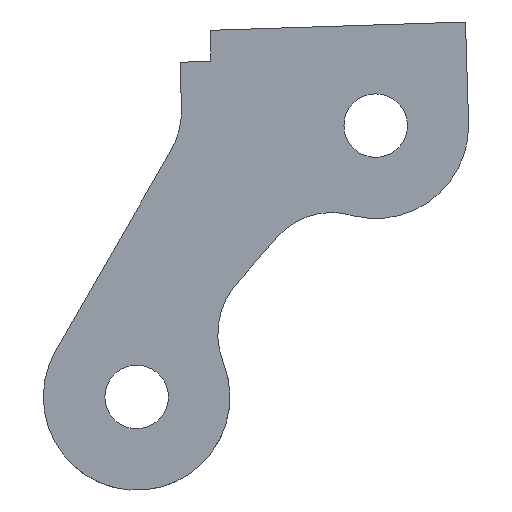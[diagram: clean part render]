
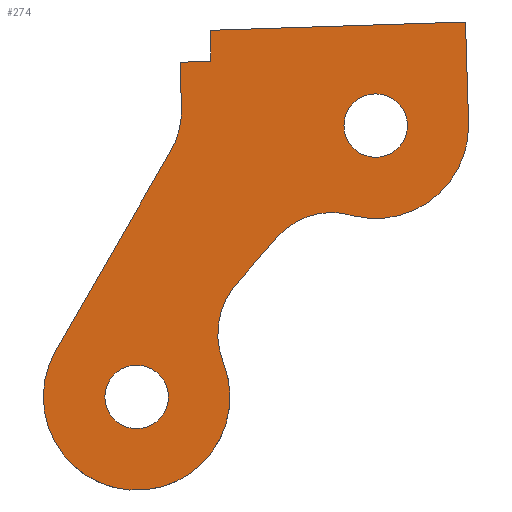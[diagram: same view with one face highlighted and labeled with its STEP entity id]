
A CAD part, front view. The second image highlights one B-rep face of the part: STEP entity #274.
In plain terms, the highlighted planar face has unit normal (0, -1, 0).
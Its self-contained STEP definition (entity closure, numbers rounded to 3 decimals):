
#2 = DIRECTION ( 'NONE',  ( 0., 0., 1. ) ) ;
#3 = LINE ( 'NONE', #490, #71 ) ;
#9 = CARTESIAN_POINT ( 'NONE',  ( 15.429, -7.25, 19.566 ) ) ;
#15 = CARTESIAN_POINT ( 'NONE',  ( 6.204, -7.25, 7.03 ) ) ;
#30 = CIRCLE ( 'NONE', #160, 2.05 ) ;
#31 = ORIENTED_EDGE ( 'NONE', *, *, #581, .F. ) ;
#37 = CARTESIAN_POINT ( 'NONE',  ( 5.593, -7.25, 2.227 ) ) ;
#40 = CARTESIAN_POINT ( 'NONE',  ( 21.429, -7.25, 17.516 ) ) ;
#43 = VECTOR ( 'NONE', #291, 1000. ) ;
#46 = CARTESIAN_POINT ( 'NONE',  ( 2.205, -7.25, 15.884 ) ) ;
#48 = EDGE_CURVE ( 'NONE', #528, #679, #280, .T. ) ;
#55 = CARTESIAN_POINT ( 'NONE',  ( 10.239, -7.25, 4.077 ) ) ;
#61 = CIRCLE ( 'NONE', #639, 5. ) ;
#63 = CARTESIAN_POINT ( 'NONE',  ( 12.6, -7.25, 7.255 ) ) ;
#68 = ORIENTED_EDGE ( 'NONE', *, *, #269, .F. ) ;
#70 = CARTESIAN_POINT ( 'NONE',  ( 2.801, -7.25, 21.602 ) ) ;
#71 = VECTOR ( 'NONE', #152, 1000. ) ;
#77 = EDGE_CURVE ( 'NONE', #512, #528, #520, .T. ) ;
#78 = EDGE_LOOP ( 'NONE', ( #68, #647, #127, #427, #304, #578, #447, #603, #286, #199, #241, #31 ) ) ;
#80 = CARTESIAN_POINT ( 'NONE',  ( 15.429, -7.25, 17.516 ) ) ;
#81 = VERTEX_POINT ( 'NONE', #46 ) ;
#86 = EDGE_CURVE ( 'NONE', #285, #285, #514, .T. ) ;
#88 = VERTEX_POINT ( 'NONE', #37 ) ;
#90 = DIRECTION ( 'NONE',  ( 0., 1., 0. ) ) ;
#95 = AXIS2_PLACEMENT_3D ( 'NONE', #248, #354, #252 ) ;
#98 = DIRECTION ( 'NONE',  ( 0., 0., 1. ) ) ;
#105 = CARTESIAN_POINT ( 'NONE',  ( 4.8, -7.25, 21.667 ) ) ;
#118 = DIRECTION ( 'NONE',  ( -0.029, 0., 1. ) ) ;
#124 = EDGE_LOOP ( 'NONE', ( #554 ) ) ;
#127 = ORIENTED_EDGE ( 'NONE', *, *, #129, .F. ) ;
#129 = EDGE_CURVE ( 'NONE', #214, #81, #695, .T. ) ;
#136 = DIRECTION ( 'NONE',  ( 0., 1., 0. ) ) ;
#141 = DIRECTION ( 'NONE',  ( 0., 1., 0. ) ) ;
#145 = DIRECTION ( 'NONE',  ( 0., 0., 1. ) ) ;
#148 = CARTESIAN_POINT ( 'NONE',  ( 4.8, -7.25, 21.667 ) ) ;
#150 = EDGE_CURVE ( 'NONE', #88, #214, #658, .T. ) ;
#152 = DIRECTION ( 'NONE',  ( -0.031, 0., 1. ) ) ;
#157 = LINE ( 'NONE', #15, #43 ) ;
#160 = AXIS2_PLACEMENT_3D ( 'NONE', #301, #141, #235 ) ;
#175 = LINE ( 'NONE', #506, #674 ) ;
#177 = CARTESIAN_POINT ( 'NONE',  ( 21.227, -7.25, 24.201 ) ) ;
#188 = EDGE_CURVE ( 'NONE', #395, #88, #61, .T. ) ;
#191 = EDGE_CURVE ( 'NONE', #679, #664, #456, .T. ) ;
#196 = CARTESIAN_POINT ( 'NONE',  ( -5.216, -7.25, 3.006 ) ) ;
#198 = VECTOR ( 'NONE', #630, 1000. ) ;
#199 = ORIENTED_EDGE ( 'NONE', *, *, #636, .F. ) ;
#209 = DIRECTION ( 'NONE',  ( 0., 0., -1. ) ) ;
#212 = CARTESIAN_POINT ( 'NONE',  ( -5.216, -7.25, 3.006 ) ) ;
#214 = VERTEX_POINT ( 'NONE', #212 ) ;
#216 = AXIS2_PLACEMENT_3D ( 'NONE', #323, #319, #429 ) ;
#221 = VERTEX_POINT ( 'NONE', #105 ) ;
#235 = DIRECTION ( 'NONE',  ( 0., 0., 1. ) ) ;
#241 = ORIENTED_EDGE ( 'NONE', *, *, #632, .F. ) ;
#244 = CIRCLE ( 'NONE', #95, 5.179 ) ;
#248 = CARTESIAN_POINT ( 'NONE',  ( -2.282, -7.25, 18.47 ) ) ;
#249 = DIRECTION ( 'NONE',  ( 0., 1., 0. ) ) ;
#252 = DIRECTION ( 'NONE',  ( 0., 0., -1. ) ) ;
#258 = AXIS2_PLACEMENT_3D ( 'NONE', #63, #646, #2 ) ;
#269 = EDGE_CURVE ( 'NONE', #422, #391, #3, .T. ) ;
#270 = VERTEX_POINT ( 'NONE', #9 ) ;
#274 = ADVANCED_FACE ( 'NONE', ( #376, #382, #313 ), #593, .T. ) ;
#280 = CIRCLE ( 'NONE', #685, 6. ) ;
#285 = VERTEX_POINT ( 'NONE', #521 ) ;
#286 = ORIENTED_EDGE ( 'NONE', *, *, #77, .F. ) ;
#287 = CARTESIAN_POINT ( 'NONE',  ( 2.897, -7.25, 18.548 ) ) ;
#289 = EDGE_CURVE ( 'NONE', #664, #395, #157, .T. ) ;
#291 = DIRECTION ( 'NONE',  ( -0.661, 0., -0.751 ) ) ;
#296 = CARTESIAN_POINT ( 'NONE',  ( 14.047, -7.25, 11.677 ) ) ;
#301 = CARTESIAN_POINT ( 'NONE',  ( 15.429, -7.25, 17.516 ) ) ;
#304 = ORIENTED_EDGE ( 'NONE', *, *, #188, .F. ) ;
#313 = FACE_OUTER_BOUND ( 'NONE', #78, .T. ) ;
#319 = DIRECTION ( 'NONE',  ( 0., -1., 0. ) ) ;
#323 = CARTESIAN_POINT ( 'NONE',  ( -2.282, -7.25, 18.47 ) ) ;
#354 = DIRECTION ( 'NONE',  ( 0., -1., 0. ) ) ;
#373 = DIRECTION ( 'NONE',  ( 0., 0., 1. ) ) ;
#376 = FACE_BOUND ( 'NONE', #564, .T. ) ;
#382 = FACE_BOUND ( 'NONE', #124, .T. ) ;
#391 = VERTEX_POINT ( 'NONE', #70 ) ;
#394 = CARTESIAN_POINT ( 'NONE',  ( 6.204, -7.25, 7.03 ) ) ;
#395 = VERTEX_POINT ( 'NONE', #394 ) ;
#396 = DIRECTION ( 'NONE',  ( 0.999, 0., 0.032 ) ) ;
#397 = AXIS2_PLACEMENT_3D ( 'NONE', #574, #249, #98 ) ;
#414 = CARTESIAN_POINT ( 'NONE',  ( 2.801, -7.25, 21.602 ) ) ;
#415 = DIRECTION ( 'NONE',  ( 0.499, 0., 0.866 ) ) ;
#422 = VERTEX_POINT ( 'NONE', #287 ) ;
#423 = VECTOR ( 'NONE', #689, 1000. ) ;
#427 = ORIENTED_EDGE ( 'NONE', *, *, #150, .F. ) ;
#429 = DIRECTION ( 'NONE',  ( 0., 0., -1. ) ) ;
#438 = EDGE_CURVE ( 'NONE', #270, #270, #30, .T. ) ;
#441 = VECTOR ( 'NONE', #118, 1000. ) ;
#447 = ORIENTED_EDGE ( 'NONE', *, *, #191, .F. ) ;
#456 = CIRCLE ( 'NONE', #258, 4.652 ) ;
#460 = CARTESIAN_POINT ( 'NONE',  ( 9.107, -7.25, 10.329 ) ) ;
#464 = EDGE_CURVE ( 'NONE', #81, #422, #244, .T. ) ;
#466 = CARTESIAN_POINT ( 'NONE',  ( 4.742, -7.25, 23.665 ) ) ;
#490 = CARTESIAN_POINT ( 'NONE',  ( 2.801, -7.25, 21.602 ) ) ;
#499 = VECTOR ( 'NONE', #415, 1000. ) ;
#506 = CARTESIAN_POINT ( 'NONE',  ( 21.227, -7.25, 24.201 ) ) ;
#512 = VERTEX_POINT ( 'NONE', #177 ) ;
#514 = CIRCLE ( 'NONE', #397, 2.05 ) ;
#515 = AXIS2_PLACEMENT_3D ( 'NONE', #577, #90, #209 ) ;
#520 = LINE ( 'NONE', #531, #423 ) ;
#521 = CARTESIAN_POINT ( 'NONE',  ( 0., -7.25, 2.05 ) ) ;
#528 = VERTEX_POINT ( 'NONE', #40 ) ;
#531 = CARTESIAN_POINT ( 'NONE',  ( 21.227, -7.25, 24.201 ) ) ;
#554 = ORIENTED_EDGE ( 'NONE', *, *, #86, .T. ) ;
#564 = EDGE_LOOP ( 'NONE', ( #568 ) ) ;
#568 = ORIENTED_EDGE ( 'NONE', *, *, #438, .T. ) ;
#572 = VERTEX_POINT ( 'NONE', #466 ) ;
#574 = CARTESIAN_POINT ( 'NONE',  ( 0., -7.25, 0. ) ) ;
#577 = CARTESIAN_POINT ( 'NONE',  ( 0., -7.25, 0. ) ) ;
#578 = ORIENTED_EDGE ( 'NONE', *, *, #289, .F. ) ;
#581 = EDGE_CURVE ( 'NONE', #391, #221, #683, .T. ) ;
#593 = PLANE ( 'NONE',  #216 ) ;
#603 = ORIENTED_EDGE ( 'NONE', *, *, #48, .F. ) ;
#630 = DIRECTION ( 'NONE',  ( 0.999, 0., 0.032 ) ) ;
#632 = EDGE_CURVE ( 'NONE', #221, #572, #645, .T. ) ;
#636 = EDGE_CURVE ( 'NONE', #572, #512, #175, .T. ) ;
#639 = AXIS2_PLACEMENT_3D ( 'NONE', #55, #654, #373 ) ;
#645 = LINE ( 'NONE', #148, #441 ) ;
#646 = DIRECTION ( 'NONE',  ( 0., -1., 0. ) ) ;
#647 = ORIENTED_EDGE ( 'NONE', *, *, #464, .F. ) ;
#654 = DIRECTION ( 'NONE',  ( 0., -1., 0. ) ) ;
#658 = CIRCLE ( 'NONE', #515, 6.02 ) ;
#664 = VERTEX_POINT ( 'NONE', #460 ) ;
#674 = VECTOR ( 'NONE', #396, 1000. ) ;
#679 = VERTEX_POINT ( 'NONE', #296 ) ;
#683 = LINE ( 'NONE', #414, #198 ) ;
#685 = AXIS2_PLACEMENT_3D ( 'NONE', #80, #136, #145 ) ;
#689 = DIRECTION ( 'NONE',  ( 0.03, 0., -1. ) ) ;
#695 = LINE ( 'NONE', #196, #499 ) ;
